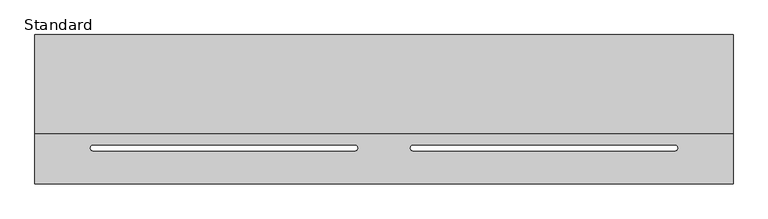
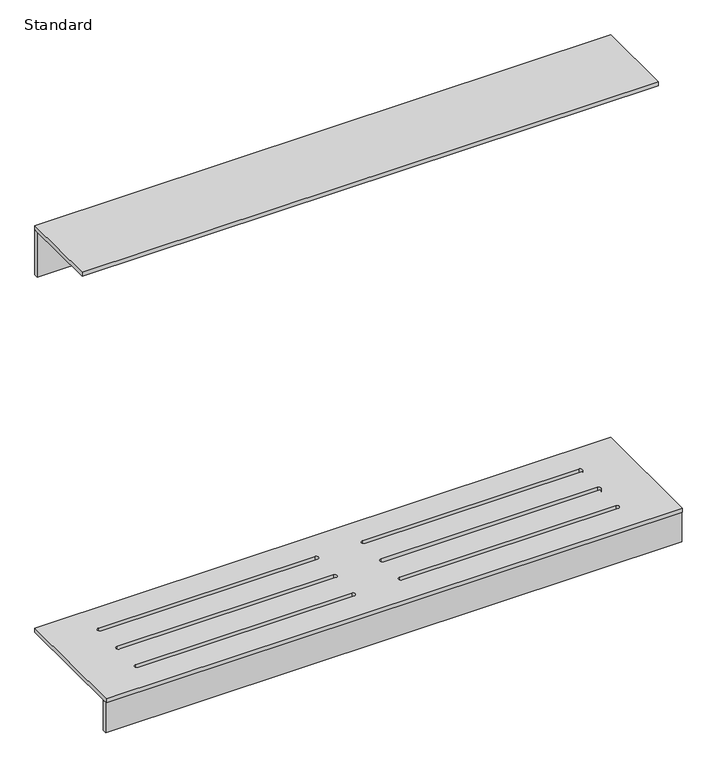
"""IFC4 building model written with IfcOpenShell, lengths in millimetres: furniture geometry, X_Bench-Wall-Duracube-Standard : Standard."""

from ifc_helpers import new_model, si_unit, point, frame, frame_2d, origin, place, context, project, spatial, polyline, circle_curve, trimmed, segment, composite_curve, outline, extrude, source, transform, mapped, element, save


def standard_908f37bb(model_context):
    return source(origin(), model_context, "Body", "SweptSolid", [
        extrude(outline(polyline([(944.7003264, -407.5), (944.7003264, -662.5), (-855.2996736, -662.5), (-855.2996736, -407.5), (944.7003264, -407.5)])), frame((0.0, 0.0, 1787.0), z_axis=(0.0, 0.0, 1.0), x_axis=(1.0, 0.0, 0.0)), (0.0, 0.0, 1.0), 13.0),
        extrude(outline(polyline([(944.7003264, -407.5), (944.7003264, -420.5), (-855.2996736, -420.5), (-855.2996736, -407.5), (944.7003264, -407.5)])), frame((0.0, 0.0, 1637.0), z_axis=(0.0, 0.0, 1.0), x_axis=(1.0, 0.0, 0.0)), (0.0, 0.0, 1.0), 150.0),
        extrude(outline(polyline([(944.7003264, -777.5), (944.7003264, -790.5), (-855.2996736, -790.5), (-855.2996736, -777.5), (944.7003264, -777.5)])), frame((0.0, 0.0, 357.0), z_axis=(0.0, 0.0, 1.0), x_axis=(1.0, 0.0, 0.0)), (0.0, 0.0, 1.0), 100.0),
        extrude(outline(polyline([(944.7003264, -792.5), (-855.2996736, -792.5), (-855.2996736, -407.5), (944.7003264, -407.5), (944.7003264, -792.5)]), holes=[composite_curve([segment(polyline([(-30.2996736, -493.25), (-705.2996736, -493.25)]), True, "CONTINUOUS"), segment(trimmed(circle_curve(frame_2d((-705.2996736, -500.25)), 7.0), [point((-705.2996736, -493.25))], [point((-705.2996736, -507.25))], True, "CARTESIAN"), True, "CONTINUOUS"), segment(polyline([(-705.2996736, -507.25), (-30.2996736, -507.25)]), True, "CONTINUOUS"), segment(trimmed(circle_curve(frame_2d((-30.2996736, -500.25)), 7.0), [point((-30.2996736, -507.25))], [point((-30.2996736, -493.25))], True, "CARTESIAN"), True, "CONTINUOUS")], self_intersect=False), composite_curve([segment(polyline([(-30.2996736, -593.0), (-705.2996736, -593.0)]), True, "CONTINUOUS"), segment(trimmed(circle_curve(frame_2d((-705.2996736, -600.0)), 7.0), [point((-705.2996736, -593.0))], [point((-705.2996736, -607.0))], True, "CARTESIAN"), True, "CONTINUOUS"), segment(polyline([(-705.2996736, -607.0), (-30.2996736, -607.0)]), True, "CONTINUOUS"), segment(trimmed(circle_curve(frame_2d((-30.2996736, -600.0)), 7.0), [point((-30.2996736, -607.0))], [point((-30.2996736, -593.0))], True, "CARTESIAN"), True, "CONTINUOUS")], self_intersect=False), composite_curve([segment(polyline([(-30.2996736, -692.75), (-705.2996736, -692.75)]), True, "CONTINUOUS"), segment(trimmed(circle_curve(frame_2d((-705.2996736, -699.75)), 7.0), [point((-705.2996736, -692.75))], [point((-705.2996736, -706.75))], True, "CARTESIAN"), True, "CONTINUOUS"), segment(polyline([(-705.2996736, -706.75), (-30.2996736, -706.75)]), True, "CONTINUOUS"), segment(trimmed(circle_curve(frame_2d((-30.2996736, -699.75)), 7.0), [point((-30.2996736, -706.75))], [point((-30.2996736, -692.75))], True, "CARTESIAN"), True, "CONTINUOUS")], self_intersect=False), composite_curve([segment(polyline([(794.7003264, -493.25), (119.7003264, -493.25)]), True, "CONTINUOUS"), segment(trimmed(circle_curve(frame_2d((119.7003264, -500.25)), 7.0), [point((119.7003264, -493.25))], [point((119.7003264, -507.25))], True, "CARTESIAN"), True, "CONTINUOUS"), segment(polyline([(119.7003264, -507.25), (794.7003264, -507.25)]), True, "CONTINUOUS"), segment(trimmed(circle_curve(frame_2d((794.7003264, -500.25)), 7.0), [point((794.7003264, -507.25))], [point((794.7003264, -493.25))], True, "CARTESIAN"), True, "CONTINUOUS")], self_intersect=False), composite_curve([segment(polyline([(794.7003264, -593.0), (119.7003264, -593.0)]), True, "CONTINUOUS"), segment(trimmed(circle_curve(frame_2d((119.7003264, -600.0)), 7.0), [point((119.7003264, -593.0))], [point((119.7003264, -607.0))], True, "CARTESIAN"), True, "CONTINUOUS"), segment(polyline([(119.7003264, -607.0), (794.7003264, -607.0)]), True, "CONTINUOUS"), segment(trimmed(circle_curve(frame_2d((794.7003264, -600.0)), 7.0), [point((794.7003264, -607.0))], [point((794.7003264, -593.0))], True, "CARTESIAN"), True, "CONTINUOUS")], self_intersect=False), composite_curve([segment(polyline([(794.7003264, -692.75), (119.7003264, -692.75)]), True, "CONTINUOUS"), segment(trimmed(circle_curve(frame_2d((119.7003264, -699.75)), 7.0), [point((119.7003264, -692.75))], [point((119.7003264, -706.75))], True, "CARTESIAN"), True, "CONTINUOUS"), segment(polyline([(119.7003264, -706.75), (794.7003264, -706.75)]), True, "CONTINUOUS"), segment(trimmed(circle_curve(frame_2d((794.7003264, -699.75)), 7.0), [point((794.7003264, -706.75))], [point((794.7003264, -692.75))], True, "CARTESIAN"), True, "CONTINUOUS")], self_intersect=False)]), frame((0.0, 0.0, 457.0), z_axis=(0.0, 0.0, 1.0), x_axis=(1.0, 0.0, 0.0)), (0.0, 0.0, 1.0), 13.0),
    ])


if __name__ == "__main__":
    model = new_model("IFC4")
    model_context = context("Model", 3, world=origin())
    ifc_project = project(units=[si_unit("LENGTHUNIT", "METRE", prefix="MILLI")], contexts=[model_context])
    site = spatial("IfcSite", under=ifc_project)
    building = spatial("IfcBuilding", under=site)
    placement = place(None, origin())
    standard_shape = standard_908f37bb(model_context)
    element("IfcFurniture", 1, ObjectType="X_Bench-Wall-Duracube-Standard : Standard", at=placement, inside=building, context=model_context, shape_type="MappedRepresentation", body=[
        mapped(standard_shape, transform((0.0, 0.0, 0.0), x_axis=(1.0, 0.0, 0.0), y_axis=(0.0, 1.0, 0.0), z_axis=(0.0, 0.0, 1.0))),
    ])
    save(model, "model.ifc")
